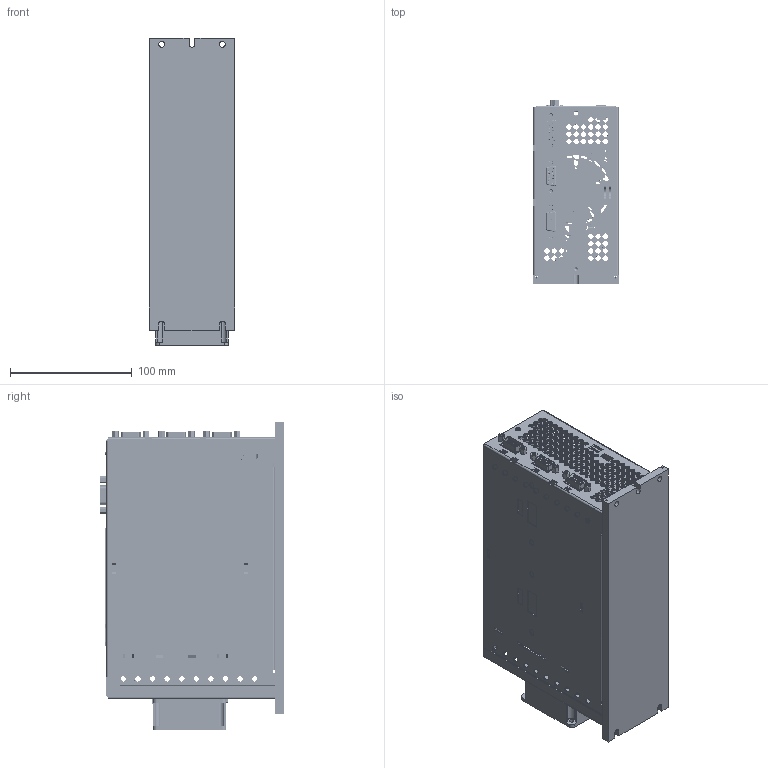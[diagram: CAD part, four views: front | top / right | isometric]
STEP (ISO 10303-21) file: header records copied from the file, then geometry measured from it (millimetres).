
FILE_DESCRIPTION (( 'STEP AP214' ), '1' );
FILE_NAME ('CDD-BG2_Luefter.STEP', '2010-09-17T07:35:15', ( 'Bereich' ), ( 'LTi DRiVES GmbH' ), 'SwSTEP 2.0', 'SolidWorks 2008', '' );
FILE_SCHEMA (( 'AUTOMOTIVE_DESIGN' ));
Length unit declared in the file: millimetre
Products named in the file (27): 0931.508.0_Standard; DISTANZBOLZEN 107749_Standard; TEST_Standard; D_SUB_9POLIG_108581_Standard; D_SUB_15POLIG_Standard; polig-Stift_Standard; mc_1_5-10-g-3_81_Standard; gmstba_2.5-12-g-7.62_Standard; MSTBA_2.5-2-G1_Standard; MSTBA_2.5-2-G(1)1_Standard; Steuerprint CDB-1_Standard; 0931.500.0-1_Standard; D-SUB 9polig 106256-1_Standard; Steuerprint CDB-1; D-SUB 9polig 106256; Self-clinching Nut_PMM_PEM S-M4-0 ZI--N; LED_3FACH_108455-1_Standard; LED_3FACH_108455; Steuerprint_Standard; Drucktaster-105902-1_Standard; Drucktaster-105902; LÜFTER 60X60X25_Standard; 0931.520.0_Standard; CDD-BG2_Luefter; 0890.503.0_Standard; 1001.575.0; 0931.502.0_Standard
Assembly tree (35 placements, depth 4):
  Steuerprint CDB-1_Standard
  0931.500.0-1_Standard
  CDD-BG2_Luefter
    gmstba_2.5-12-g-7.62_Standard
    DISTANZBOLZEN 107749_Standard  x8
    Steuerprint CDB-1
      Drucktaster-105902
        Drucktaster-105902-1_Standard
      D_SUB_15POLIG_Standard
      polig-Stift_Standard
      LED_3FACH_108455
        LED_3FACH_108455-1_Standard
      mc_1_5-10-g-3_81_Standard  x2
      MSTBA_2.5-2-G(1)1_Standard
        MSTBA_2.5-2-G1_Standard
      D-SUB 9polig 106256
        D-SUB 9polig 106256-1_Standard
      Steuerprint_Standard
    0931.508.0_Standard
    LÜFTER 60X60X25_Standard
    1001.575.0
      0890.503.0_Standard
      Self-clinching Nut_PMM_PEM S-M4-0 ZI--N  x4
    0931.502.0_Standard
    D_SUB_9POLIG_108581_Standard
      TEST_Standard
    0931.520.0_Standard
Bounding box: 70 x 151.1 x 252.9 mm (x, y, z)
Volume: 424420.3 mm3; surface area: 337947.6 mm2
Topology: 29 solids, 29 shells, 5090 faces, 12806 edges, 8086 vertices
Faces by surface type: plane 3299, cylinder 1009, bspline 556, cone 176, torus 28, sphere 22
Entity records: 143637 total; most frequent: CARTESIAN_POINT 29873, ORIENTED_EDGE 19604, DIRECTION 17653, EDGE_CURVE 9802, LINE 6677, VECTOR 6677, VERTEX_POINT 6208, AXIS2_PLACEMENT_3D 5488
